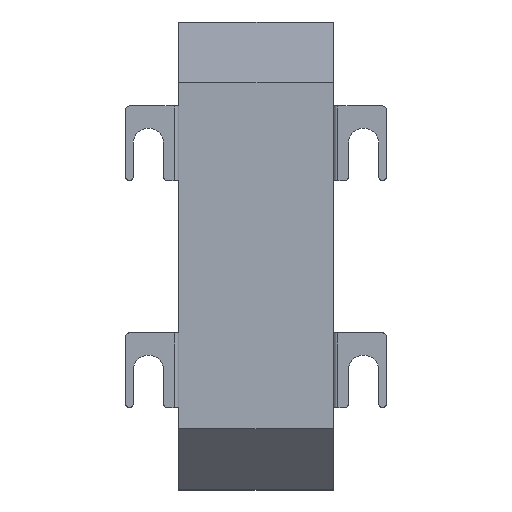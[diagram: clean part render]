
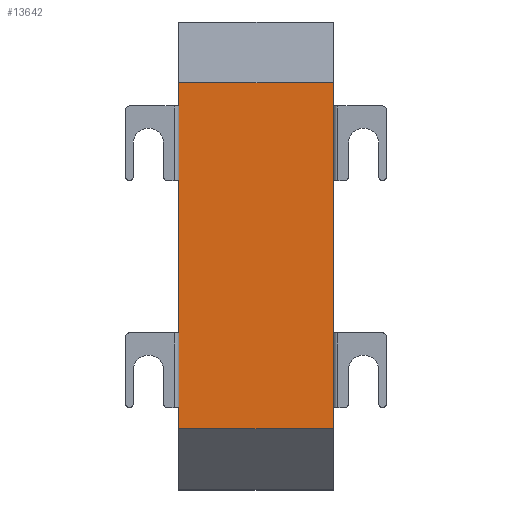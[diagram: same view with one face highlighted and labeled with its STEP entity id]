
A CAD part, top view. The second image highlights one B-rep face of the part: STEP entity #13642.
In plain terms, the highlighted planar face has unit normal (0, 0, 1) as drawn and (0, -1, 0) by its records, which use the part's own axes.
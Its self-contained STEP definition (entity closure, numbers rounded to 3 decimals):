
#357 = LINE ( 'NONE', #11901, #7432 ) ;
#498 = DIRECTION ( 'NONE',  ( 1., 0., 0. ) ) ;
#507 = VECTOR ( 'NONE', #11863, 1000. ) ;
#698 = ORIENTED_EDGE ( 'NONE', *, *, #2963, .T. ) ;
#1204 = VERTEX_POINT ( 'NONE', #8897 ) ;
#1222 = LINE ( 'NONE', #5844, #4677 ) ;
#1305 = EDGE_CURVE ( 'NONE', #10000, #9090, #6659, .T. ) ;
#1328 = CARTESIAN_POINT ( 'NONE',  ( 74., 0., 16.5 ) ) ;
#1416 = DIRECTION ( 'NONE',  ( 1., 0., 0. ) ) ;
#1591 = CARTESIAN_POINT ( 'NONE',  ( 5., 0., 16.5 ) ) ;
#1839 = VERTEX_POINT ( 'NONE', #9073 ) ;
#2394 = DIRECTION ( 'NONE',  ( 1., 0., 0. ) ) ;
#2395 = CARTESIAN_POINT ( 'NONE',  ( 0., 0., -16.5 ) ) ;
#2750 = VECTOR ( 'NONE', #4697, 1000. ) ;
#2857 = ORIENTED_EDGE ( 'NONE', *, *, #14904, .F. ) ;
#2963 = EDGE_CURVE ( 'NONE', #1204, #11942, #3528, .T. ) ;
#3406 = CARTESIAN_POINT ( 'NONE',  ( 21., 0., -16.5 ) ) ;
#3446 = VECTOR ( 'NONE', #12198, 1000. ) ;
#3483 = VERTEX_POINT ( 'NONE', #5284 ) ;
#3528 = LINE ( 'NONE', #12711, #6625 ) ;
#3771 = EDGE_CURVE ( 'NONE', #1839, #3483, #4810, .T. ) ;
#4010 = LINE ( 'NONE', #11000, #3446 ) ;
#4041 = LINE ( 'NONE', #14506, #7997 ) ;
#4677 = VECTOR ( 'NONE', #4704, 1000. ) ;
#4697 = DIRECTION ( 'NONE',  ( 1., 0., 0. ) ) ;
#4704 = DIRECTION ( 'NONE',  ( 0., 0., -1. ) ) ;
#4810 = LINE ( 'NONE', #7166, #13826 ) ;
#5284 = CARTESIAN_POINT ( 'NONE',  ( 53.5, 0., 16.5 ) ) ;
#5462 = ORIENTED_EDGE ( 'NONE', *, *, #1305, .T. ) ;
#5534 = ORIENTED_EDGE ( 'NONE', *, *, #3771, .F. ) ;
#5550 = ORIENTED_EDGE ( 'NONE', *, *, #8850, .F. ) ;
#5714 = VERTEX_POINT ( 'NONE', #14049 ) ;
#5732 = EDGE_CURVE ( 'NONE', #12375, #5714, #1222, .T. ) ;
#5844 = CARTESIAN_POINT ( 'NONE',  ( 74., 0., 16.5 ) ) ;
#6074 = LINE ( 'NONE', #7296, #507 ) ;
#6236 = VERTEX_POINT ( 'NONE', #8456 ) ;
#6333 = LINE ( 'NONE', #11748, #10084 ) ;
#6472 = ORIENTED_EDGE ( 'NONE', *, *, #12751, .T. ) ;
#6625 = VECTOR ( 'NONE', #2394, 1000. ) ;
#6659 = LINE ( 'NONE', #11230, #13910 ) ;
#6660 = EDGE_CURVE ( 'NONE', #9441, #1839, #4041, .T. ) ;
#6692 = FACE_OUTER_BOUND ( 'NONE', #6845, .T. ) ;
#6725 = CARTESIAN_POINT ( 'NONE',  ( 69.5, 0., 16.5 ) ) ;
#6845 = EDGE_LOOP ( 'NONE', ( #6472, #698, #11721, #8421, #13771, #12960, #5550, #2857, #5534, #12233, #8853, #5462 ) ) ;
#7166 = CARTESIAN_POINT ( 'NONE',  ( 0., 0., 16.5 ) ) ;
#7175 = DIRECTION ( 'NONE',  ( 1., 0., 0. ) ) ;
#7296 = CARTESIAN_POINT ( 'NONE',  ( 0., 0., 16.5 ) ) ;
#7432 = VECTOR ( 'NONE', #7175, 1000. ) ;
#7473 = EDGE_CURVE ( 'NONE', #6236, #5714, #4010, .T. ) ;
#7712 = DIRECTION ( 'NONE',  ( 0., 0., -1. ) ) ;
#7973 = CARTESIAN_POINT ( 'NONE',  ( 0., 0., 16.5 ) ) ;
#7997 = VECTOR ( 'NONE', #9828, 1000. ) ;
#8421 = ORIENTED_EDGE ( 'NONE', *, *, #10647, .T. ) ;
#8456 = CARTESIAN_POINT ( 'NONE',  ( 69.5, 0., -16.5 ) ) ;
#8792 = CARTESIAN_POINT ( 'NONE',  ( 0., 0., 16.5 ) ) ;
#8850 = EDGE_CURVE ( 'NONE', #12030, #12375, #12332, .T. ) ;
#8853 = ORIENTED_EDGE ( 'NONE', *, *, #14897, .F. ) ;
#8897 = CARTESIAN_POINT ( 'NONE',  ( 5., 0., -16.5 ) ) ;
#9073 = CARTESIAN_POINT ( 'NONE',  ( 21., 0., 16.5 ) ) ;
#9090 = VERTEX_POINT ( 'NONE', #2395 ) ;
#9314 = CARTESIAN_POINT ( 'NONE',  ( 0., 0., 16.5 ) ) ;
#9441 = VERTEX_POINT ( 'NONE', #1591 ) ;
#9456 = DIRECTION ( 'NONE',  ( 1., 0., 0. ) ) ;
#9828 = DIRECTION ( 'NONE',  ( 1., 0., 0. ) ) ;
#10000 = VERTEX_POINT ( 'NONE', #8792 ) ;
#10084 = VECTOR ( 'NONE', #1416, 1000. ) ;
#10291 = PLANE ( 'NONE',  #13926 ) ;
#10436 = DIRECTION ( 'NONE',  ( 0., 1., 0. ) ) ;
#10460 = DIRECTION ( 'NONE',  ( 1., 0., 0. ) ) ;
#10647 = EDGE_CURVE ( 'NONE', #13648, #6236, #6333, .T. ) ;
#11000 = CARTESIAN_POINT ( 'NONE',  ( 0., 0., -16.5 ) ) ;
#11230 = CARTESIAN_POINT ( 'NONE',  ( 0., 0., 16.5 ) ) ;
#11721 = ORIENTED_EDGE ( 'NONE', *, *, #14494, .T. ) ;
#11748 = CARTESIAN_POINT ( 'NONE',  ( 0., 0., -16.5 ) ) ;
#11863 = DIRECTION ( 'NONE',  ( 1., 0., 0. ) ) ;
#11901 = CARTESIAN_POINT ( 'NONE',  ( 0., 0., -16.5 ) ) ;
#11942 = VERTEX_POINT ( 'NONE', #3406 ) ;
#12030 = VERTEX_POINT ( 'NONE', #6725 ) ;
#12198 = DIRECTION ( 'NONE',  ( 1., 0., 0. ) ) ;
#12233 = ORIENTED_EDGE ( 'NONE', *, *, #6660, .F. ) ;
#12258 = CARTESIAN_POINT ( 'NONE',  ( 0., 0., 16.5 ) ) ;
#12332 = LINE ( 'NONE', #12258, #13759 ) ;
#12375 = VERTEX_POINT ( 'NONE', #1328 ) ;
#12557 = CARTESIAN_POINT ( 'NONE',  ( 53.5, 0., -16.5 ) ) ;
#12711 = CARTESIAN_POINT ( 'NONE',  ( 0., 0., -16.5 ) ) ;
#12751 = EDGE_CURVE ( 'NONE', #9090, #1204, #13822, .T. ) ;
#12755 = CARTESIAN_POINT ( 'NONE',  ( 0., 0., -16.5 ) ) ;
#12960 = ORIENTED_EDGE ( 'NONE', *, *, #5732, .F. ) ;
#13034 = VECTOR ( 'NONE', #9456, 1000. ) ;
#13542 = DIRECTION ( 'NONE',  ( 0., 0., 1. ) ) ;
#13642 = ADVANCED_FACE ( 'NONE', ( #6692 ), #10291, .F. ) ;
#13648 = VERTEX_POINT ( 'NONE', #12557 ) ;
#13759 = VECTOR ( 'NONE', #498, 1000. ) ;
#13771 = ORIENTED_EDGE ( 'NONE', *, *, #7473, .T. ) ;
#13822 = LINE ( 'NONE', #12755, #2750 ) ;
#13826 = VECTOR ( 'NONE', #10460, 1000. ) ;
#13910 = VECTOR ( 'NONE', #7712, 1000. ) ;
#13926 = AXIS2_PLACEMENT_3D ( 'NONE', #7973, #10436, #13542 ) ;
#13989 = LINE ( 'NONE', #9314, #13034 ) ;
#14049 = CARTESIAN_POINT ( 'NONE',  ( 74., 0., -16.5 ) ) ;
#14494 = EDGE_CURVE ( 'NONE', #11942, #13648, #357, .T. ) ;
#14506 = CARTESIAN_POINT ( 'NONE',  ( 0., 0., 16.5 ) ) ;
#14897 = EDGE_CURVE ( 'NONE', #10000, #9441, #13989, .T. ) ;
#14904 = EDGE_CURVE ( 'NONE', #3483, #12030, #6074, .T. ) ;
